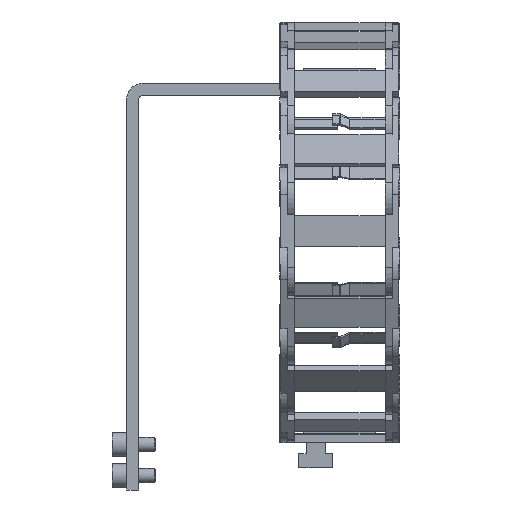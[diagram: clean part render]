
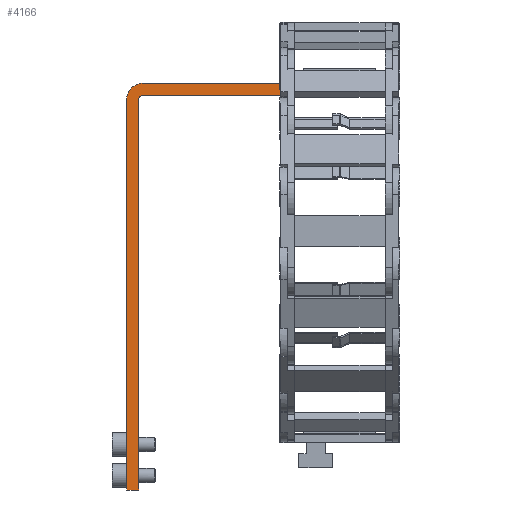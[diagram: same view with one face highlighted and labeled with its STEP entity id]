
A CAD part, left-side view. The second image highlights one B-rep face of the part: STEP entity #4166.
In plain terms, the highlighted planar face has unit normal (-1, 0, 0).
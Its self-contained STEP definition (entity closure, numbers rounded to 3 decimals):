
#4166 = ADVANCED_FACE( '', ( #9199 ), #9200, .F. );
#9199 = FACE_OUTER_BOUND( '', #15261, .T. );
#9200 = PLANE( '', #15262 );
#15261 = EDGE_LOOP( '', ( #27722, #27723, #27724, #27725, #27726, #27727, #27728, #27729, #27730 ) );
#15262 = AXIS2_PLACEMENT_3D( '', #27731, #27732, #27733 );
#27722 = ORIENTED_EDGE( '', *, *, #41704, .T. );
#27723 = ORIENTED_EDGE( '', *, *, #41705, .F. );
#27724 = ORIENTED_EDGE( '', *, *, #41706, .T. );
#27725 = ORIENTED_EDGE( '', *, *, #41707, .T. );
#27726 = ORIENTED_EDGE( '', *, *, #41708, .T. );
#27727 = ORIENTED_EDGE( '', *, *, #41709, .T. );
#27728 = ORIENTED_EDGE( '', *, *, #41710, .T. );
#27729 = ORIENTED_EDGE( '', *, *, #37357, .F. );
#27730 = ORIENTED_EDGE( '', *, *, #39578, .F. );
#27731 = CARTESIAN_POINT( '', ( 35., 93.9, 135.3 ) );
#27732 = DIRECTION( '', ( 1., 0., 0. ) );
#27733 = DIRECTION( '', ( 0., 0., -1. ) );
#37357 = EDGE_CURVE( '', #45341, #45343, #45344, .T. );
#39578 = EDGE_CURVE( '', #49120, #45341, #49121, .T. );
#41704 = EDGE_CURVE( '', #49120, #52222, #52223, .F. );
#41705 = EDGE_CURVE( '', #52224, #52222, #52225, .T. );
#41706 = EDGE_CURVE( '', #52224, #52226, #52227, .T. );
#41707 = EDGE_CURVE( '', #52226, #52228, #52229, .T. );
#41708 = EDGE_CURVE( '', #52228, #52230, #52231, .T. );
#41709 = EDGE_CURVE( '', #52230, #52232, #52233, .T. );
#41710 = EDGE_CURVE( '', #52232, #45343, #52234, .T. );
#45341 = VERTEX_POINT( '', #56763 );
#45343 = VERTEX_POINT( '', #56766 );
#45344 = LINE( '', #56767, #56768 );
#49120 = VERTEX_POINT( '', #61997 );
#49121 = LINE( '', #61998, #61999 );
#52222 = VERTEX_POINT( '', #66340 );
#52223 = CIRCLE( '', #66341, 7. );
#52224 = VERTEX_POINT( '', #66342 );
#52225 = LINE( '', #66343, #66344 );
#52226 = VERTEX_POINT( '', #66345 );
#52227 = LINE( '', #66346, #66347 );
#52228 = VERTEX_POINT( '', #66348 );
#52229 = LINE( '', #66349, #66350 );
#52230 = VERTEX_POINT( '', #66351 );
#52231 = CIRCLE( '', #66352, 2. );
#52232 = VERTEX_POINT( '', #66353 );
#52233 = LINE( '', #66354, #66355 );
#52234 = LINE( '', #66356, #66357 );
#56763 = CARTESIAN_POINT( '', ( 35., 29.9, 140.3 ) );
#56766 = CARTESIAN_POINT( '', ( 35., -19.1, 140.3 ) );
#56767 = CARTESIAN_POINT( '', ( 35., 93.9, 140.3 ) );
#56768 = VECTOR( '', #70928, 1000. );
#61997 = CARTESIAN_POINT( '', ( 35., 86.9, 140.3 ) );
#61998 = CARTESIAN_POINT( '', ( 35., 93.9, 140.3 ) );
#61999 = VECTOR( '', #73618, 1000. );
#66340 = CARTESIAN_POINT( '', ( 35., 93.9, 133.3 ) );
#66341 = AXIS2_PLACEMENT_3D( '', #75999, #76000, #76001 );
#66342 = CARTESIAN_POINT( '', ( 35., 93.9, -29.7 ) );
#66343 = CARTESIAN_POINT( '', ( 35., 93.9, 135.3 ) );
#66344 = VECTOR( '', #76002, 1000. );
#66345 = CARTESIAN_POINT( '', ( 35., 88.9, -29.7 ) );
#66346 = CARTESIAN_POINT( '', ( 35., 93.9, -29.7 ) );
#66347 = VECTOR( '', #76003, 1000. );
#66348 = CARTESIAN_POINT( '', ( 35., 88.9, 133.3 ) );
#66349 = CARTESIAN_POINT( '', ( 35., 88.9, -29.7 ) );
#66350 = VECTOR( '', #76004, 1000. );
#66351 = CARTESIAN_POINT( '', ( 35., 86.9, 135.3 ) );
#66352 = AXIS2_PLACEMENT_3D( '', #76005, #76006, #76007 );
#66353 = CARTESIAN_POINT( '', ( 35., -19.1, 135.3 ) );
#66354 = CARTESIAN_POINT( '', ( 35., 93.9, 135.3 ) );
#66355 = VECTOR( '', #76008, 1000. );
#66356 = CARTESIAN_POINT( '', ( 35., -19.1, 135.3 ) );
#66357 = VECTOR( '', #76009, 1000. );
#70928 = DIRECTION( '', ( 0., -1., 0. ) );
#73618 = DIRECTION( '', ( 0., -1., 0. ) );
#75999 = CARTESIAN_POINT( '', ( 35., 86.9, 133.3 ) );
#76000 = DIRECTION( '', ( 1., 0., 0. ) );
#76001 = DIRECTION( '', ( 0., 1., 0. ) );
#76002 = DIRECTION( '', ( 0., 0., 1. ) );
#76003 = DIRECTION( '', ( 0., -1., 0. ) );
#76004 = DIRECTION( '', ( 0., 0., 1. ) );
#76005 = CARTESIAN_POINT( '', ( 35., 86.9, 133.3 ) );
#76006 = DIRECTION( '', ( 1., 0., 0. ) );
#76007 = DIRECTION( '', ( 0., 1., 0. ) );
#76008 = DIRECTION( '', ( 0., -1., 0. ) );
#76009 = DIRECTION( '', ( 0., 0., 1. ) );
